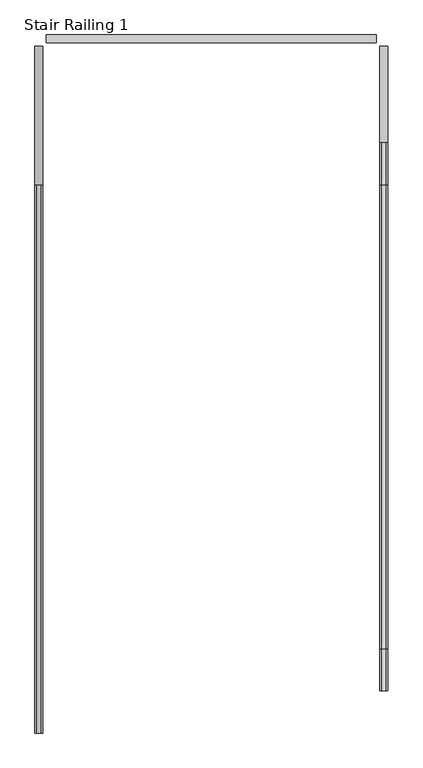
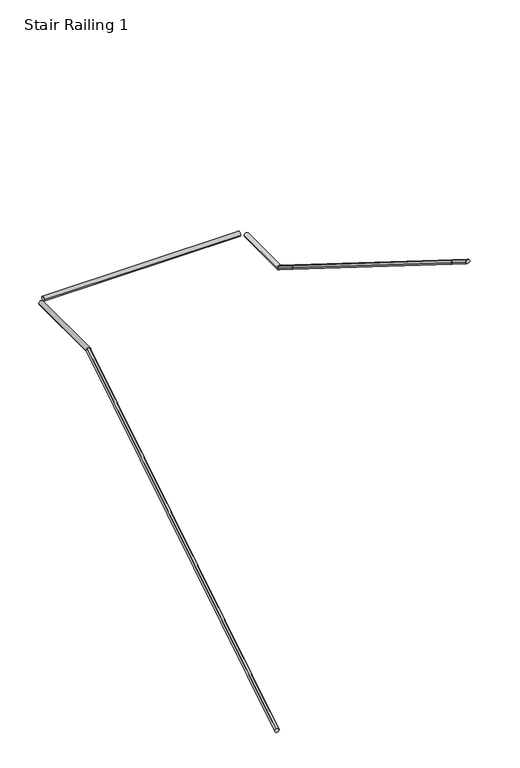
"""IFC4 building model written with IfcOpenShell, lengths in millimetres: railing geometry, Stair Railing 1."""

from ifc_helpers import new_model, si_unit, frame, origin, place, context, project, spatial, circle_curve, faceted_brep, source, transform, mapped, element, save
from ifc_brep_helpers import plane_surface, cylinder_surface, advanced_brep


def stair_railing_1_2cf15c4a(model_context):
    return source(origin(), model_context, "Body", "SolidModel", [
        faceted_brep([(-2482.1134126, 56357.2066802, 13752.6888889), (-2469.4134126, 56357.2066802, 13774.6859341), (-2444.0134126, 56357.2066802, 13774.6859341), (-2431.3134126, 56357.2066802, 13752.6888889), (-2444.0134126, 56357.2066802, 13730.6918436), (-2469.4134126, 56357.2066802, 13730.6918436), (-2482.1134126, 52725.0066802, 11477.9777778), (-2469.4134126, 52725.0066802, 11455.9807325), (-2444.0134126, 52725.0066802, 11455.9807325), (-2431.3134126, 52725.0066802, 11477.9777778), (-2444.0134126, 52725.0066802, 11499.974823), (-2469.4134126, 52725.0066802, 11499.974823)], [[[0, 1, 2, 3, 4, 5]], [[6, 7, 8, 9, 10, 11]], [[1, 0, 6, 11]], [[2, 1, 11, 10]], [[3, 2, 10, 9]], [[4, 3, 9, 8]], [[5, 4, 8, 7]], [[0, 5, 7, 6]]]),
        advanced_brep(
        [(-2482.1134126, 57271.6066802, 13752.6888889), (-2431.3134126, 57271.6066802, 13752.6888889), (-2482.1134126, 56357.2066802, 13752.6888889), (-2431.3134126, 56357.2066802, 13752.6888889)],
        [
            (0, 1, circle_curve(frame((-2456.7134126, 57271.6066802, 13752.6888889), z_axis=(0.0, 1.0, 0.0), x_axis=(-0.9999999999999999, 0.0, 0.0)), 25.4)),
            (1, 0, circle_curve(frame((-2456.7134126, 57271.6066802, 13752.6888889), z_axis=(0.0, 1.0, 0.0), x_axis=(-0.9999999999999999, 0.0, 0.0)), 25.4)),
            (2, 3, circle_curve(frame((-2456.7134126, 56357.2066802, 13752.6888889), z_axis=(0.0, -1.0, 0.0), x_axis=(-0.9999999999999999, 0.0, 0.0)), 25.4)),
            (3, 2, circle_curve(frame((-2456.7134126, 56357.2066802, 13752.6888889), z_axis=(0.0, -1.0, 0.0), x_axis=(-0.9999999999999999, 0.0, 0.0)), 25.4)),
            (0, 2),
            (3, 1),
        ],
        [
            plane_surface(frame((-2482.1134126, 57271.6066802, 13727.2888889), z_axis=(0.0, 1.0, 0.0), x_axis=(0.0, 0.0, 1.0))),
            plane_surface(frame((-2482.1134126, 56357.2066802, 13727.2888889), z_axis=(0.0, -1.0, 0.0), x_axis=(0.0, 0.0, -1.0))),
            cylinder_surface(frame((-2456.7134126, 56357.2066802, 13752.6888889), z_axis=(0.0, 0.9999999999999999, 0.0), x_axis=(-0.9999999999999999, 0.0, 0.0)), 25.4),
        ],
        [
            (0, [[1, 2]]),
            (1, [[3, 4]]),
            (2, [[-1, 5, -4, 6]]),
            (2, [[-2, -6, -3, -5]]),
        ],
    ),
        advanced_brep(
        [(-222.5891104, 57347.8066802, 13752.6888889), (-222.5891104, 57297.0066802, 13752.6888889), (-2405.9134126, 57347.8066802, 13752.6888889), (-2405.9134126, 57297.0066802, 13752.6888889)],
        [
            (0, 1, circle_curve(frame((-222.5891104, 57322.4066802, 13752.6888889), z_axis=(1.0, 0.0, 0.0), x_axis=(0.0, 1.0, 0.0)), 25.4)),
            (1, 0, circle_curve(frame((-222.5891104, 57322.4066802, 13752.6888889), z_axis=(1.0, 0.0, 0.0), x_axis=(0.0, 1.0, 0.0)), 25.4)),
            (2, 3, circle_curve(frame((-2405.9134126, 57322.4066802, 13752.6888889), z_axis=(-1.0, 0.0, 0.0), x_axis=(0.0, 1.0, 0.0)), 25.4)),
            (3, 2, circle_curve(frame((-2405.9134126, 57322.4066802, 13752.6888889), z_axis=(-1.0, 0.0, 0.0), x_axis=(0.0, 1.0, 0.0)), 25.4)),
            (0, 2),
            (3, 1),
        ],
        [
            plane_surface(frame((-222.5891104, 57347.8066802, 13727.2888889), z_axis=(1.0, 0.0, 0.0), x_axis=(0.0, 1.0, 0.0))),
            plane_surface(frame((-2405.9134126, 57347.8066802, 13727.2888889), z_axis=(-1.0, 0.0, 0.0), x_axis=(0.0, -1.0, 0.0))),
            cylinder_surface(frame((-2405.9134126, 57322.4066802, 13752.6888889), z_axis=(1.0, 0.0, 0.0), x_axis=(0.0, 1.0, 0.0)), 25.4),
        ],
        [
            (0, [[1, 2]]),
            (1, [[3, 4]]),
            (2, [[-1, 5, -4, 6]]),
            (2, [[-2, -6, -3, -5]]),
        ],
    ),
        advanced_brep(
        [(-146.3891104, 56636.6066802, 13752.6888889), (-197.1891104, 56636.6066802, 13752.6888889), (-146.3891104, 57271.6066802, 13752.6888889), (-197.1891104, 57271.6066802, 13752.6888889)],
        [
            (0, 1, circle_curve(frame((-171.7891104, 56636.6066802, 13752.6888889), z_axis=(0.0, -1.0, 0.0), x_axis=(1.0, 0.0, 0.0)), 25.4)),
            (1, 0, circle_curve(frame((-171.7891104, 56636.6066802, 13752.6888889), z_axis=(0.0, -1.0, 0.0), x_axis=(1.0, 0.0, 0.0)), 25.4)),
            (2, 3, circle_curve(frame((-171.7891104, 57271.6066802, 13752.6888889), z_axis=(0.0, 1.0, 0.0), x_axis=(1.0, 0.0, 0.0)), 25.4)),
            (3, 2, circle_curve(frame((-171.7891104, 57271.6066802, 13752.6888889), z_axis=(0.0, 1.0, 0.0), x_axis=(1.0, 0.0, 0.0)), 25.4)),
            (0, 2),
            (3, 1),
        ],
        [
            plane_surface(frame((-146.3891104, 56636.6066802, 13727.2888889), z_axis=(0.0, -1.0, 0.0), x_axis=(0.0, 0.0, -1.0))),
            plane_surface(frame((-146.3891104, 57271.6066802, 13727.2888889), z_axis=(0.0, 1.0, 0.0), x_axis=(0.0, 0.0, 1.0))),
            cylinder_surface(frame((-171.7891104, 57271.6066802, 13752.6888889), z_axis=(0.0, -1.0, 0.0), x_axis=(1.0, 0.0, 0.0)), 25.4),
        ],
        [
            (0, [[1, 2]]),
            (1, [[3, 4]]),
            (2, [[-1, 5, -4, 6]]),
            (2, [[-2, -6, -3, -5]]),
        ],
    ),
        faceted_brep([(-146.3891104, 56357.2066802, 13927.6666667), (-159.0891104, 56357.2066802, 13949.6637119), (-184.4891104, 56357.2066802, 13949.6637119), (-197.1891104, 56357.2066802, 13927.6666667), (-184.4891104, 56357.2066802, 13905.6696214), (-159.0891104, 56357.2066802, 13905.6696214), (-146.3891104, 56636.6066802, 13752.6888889), (-159.0891104, 56636.6066802, 13730.6918436), (-184.4891104, 56636.6066802, 13730.6918436), (-197.1891104, 56636.6066802, 13752.6888889), (-184.4891104, 56636.6066802, 13774.6859341), (-159.0891104, 56636.6066802, 13774.6859341)], [[[0, 1, 2, 3, 4, 5]], [[6, 7, 8, 9, 10, 11]], [[1, 0, 6, 11]], [[2, 1, 11, 10]], [[3, 2, 10, 9]], [[4, 3, 9, 8]], [[5, 4, 8, 7]], [[0, 5, 7, 6]]]),
        faceted_brep([(-146.3891104, 53283.8066802, 15852.4222222), (-159.0891104, 53283.8066802, 15874.4192675), (-184.4891104, 53283.8066802, 15874.4192675), (-197.1891104, 53283.8066802, 15852.4222222), (-184.4891104, 53283.8066802, 15830.425177), (-159.0891104, 53283.8066802, 15830.425177), (-146.3891104, 56357.2066802, 13927.6666667), (-159.0891104, 56357.2066802, 13905.6696214), (-184.4891104, 56357.2066802, 13905.6696214), (-197.1891104, 56357.2066802, 13927.6666667), (-184.4891104, 56357.2066802, 13949.6637119), (-159.0891104, 56357.2066802, 13949.6637119)], [[[0, 1, 2, 3, 4, 5]], [[6, 7, 8, 9, 10, 11]], [[1, 0, 6, 11]], [[2, 1, 11, 10]], [[3, 2, 10, 9]], [[4, 3, 9, 8]], [[5, 4, 8, 7]], [[0, 5, 7, 6]]]),
        faceted_brep([(-146.3891104, 53004.4066802, 16027.4), (-159.0891104, 53004.4066802, 16049.3970453), (-184.4891104, 53004.4066802, 16049.3970453), (-197.1891104, 53004.4066802, 16027.4), (-184.4891104, 53004.4066802, 16005.4029547), (-159.0891104, 53004.4066802, 16005.4029547), (-146.3891104, 53283.8066802, 15852.4222222), (-159.0891104, 53283.8066802, 15830.425177), (-184.4891104, 53283.8066802, 15830.425177), (-197.1891104, 53283.8066802, 15852.4222222), (-184.4891104, 53283.8066802, 15874.4192675), (-159.0891104, 53283.8066802, 15874.4192675)], [[[0, 1, 2, 3, 4, 5]], [[6, 7, 8, 9, 10, 11]], [[1, 0, 6, 11]], [[2, 1, 11, 10]], [[3, 2, 10, 9]], [[4, 3, 9, 8]], [[5, 4, 8, 7]], [[0, 5, 7, 6]]]),
    ])


if __name__ == "__main__":
    model = new_model("IFC4")
    model_context = context("Model", 3, world=origin())
    ifc_project = project(units=[si_unit("LENGTHUNIT", "METRE", prefix="MILLI")], contexts=[model_context])
    site = spatial("IfcSite", under=ifc_project)
    building = spatial("IfcBuilding", under=site)
    placement = place(None, origin())
    stair_railing_1_shape = stair_railing_1_2cf15c4a(model_context)
    element("IfcRailing", 1, ObjectType="Stair Railing 1", at=placement, inside=building, context=model_context, shape_type="MappedRepresentation", body=[
        mapped(stair_railing_1_shape, transform((0.0, 0.0, 0.0), x_axis=(1.0, 0.0, 0.0), y_axis=(0.0, 1.0, 0.0), z_axis=(0.0, 0.0, 1.0))),
    ])
    save(model, "model.ifc")
